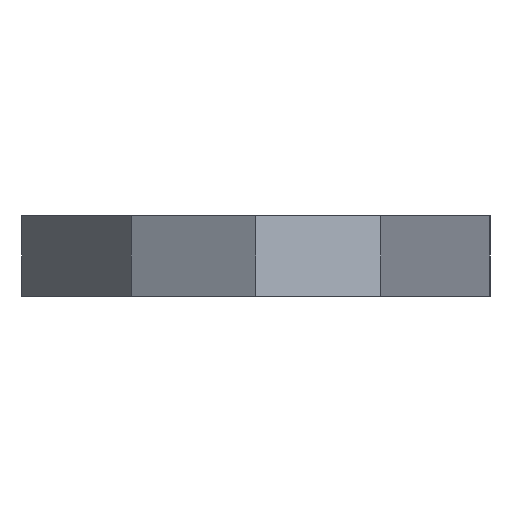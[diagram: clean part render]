
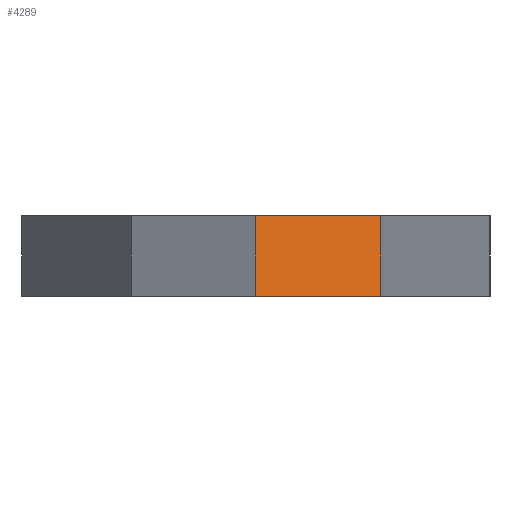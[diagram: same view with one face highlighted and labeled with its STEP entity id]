
A CAD part, left-side view. The second image highlights one B-rep face of the part: STEP entity #4289.
In plain terms, the highlighted planar face has unit normal (-0.866, -0.5, 0).
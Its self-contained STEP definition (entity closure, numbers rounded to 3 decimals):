
#285=PLANE('',#4566);
#492=FACE_OUTER_BOUND('',#709,.T.);
#709=EDGE_LOOP('',(#3677,#3678,#3679,#3680));
#1320=LINE('',#6793,#1849);
#1321=LINE('',#6796,#1850);
#1322=LINE('',#6798,#1851);
#1323=LINE('',#6799,#1852);
#1849=VECTOR('',#5609,10.);
#1850=VECTOR('',#5612,10.);
#1851=VECTOR('',#5613,10.);
#1852=VECTOR('',#5614,10.);
#2298=VERTEX_POINT('',#6789);
#2299=VERTEX_POINT('',#6791);
#2300=VERTEX_POINT('',#6795);
#2301=VERTEX_POINT('',#6797);
#2880=EDGE_CURVE('',#2298,#2299,#1320,.T.);
#2881=EDGE_CURVE('',#2300,#2298,#1321,.T.);
#2882=EDGE_CURVE('',#2301,#2299,#1322,.T.);
#2883=EDGE_CURVE('',#2300,#2301,#1323,.T.);
#3677=ORIENTED_EDGE('',*,*,#2881,.T.);
#3678=ORIENTED_EDGE('',*,*,#2880,.T.);
#3679=ORIENTED_EDGE('',*,*,#2882,.F.);
#3680=ORIENTED_EDGE('',*,*,#2883,.F.);
#4289=ADVANCED_FACE('',(#492),#285,.T.);
#4566=AXIS2_PLACEMENT_3D('',#6794,#5610,#5611);
#5609=DIRECTION('',(0.,0.,1.));
#5610=DIRECTION('center_axis',(-0.866,-0.5,0.));
#5611=DIRECTION('ref_axis',(0.5,-0.866,0.));
#5612=DIRECTION('',(0.5,-0.866,0.));
#5613=DIRECTION('',(0.5,-0.866,0.));
#5614=DIRECTION('',(0.,0.,1.));
#6789=CARTESIAN_POINT('',(38.453,17.5,0.));
#6791=CARTESIAN_POINT('',(38.453,17.5,12.85));
#6793=CARTESIAN_POINT('',(38.453,17.5,0.));
#6794=CARTESIAN_POINT('Origin',(26.906,37.5,0.));
#6795=CARTESIAN_POINT('',(26.906,37.5,0.));
#6796=CARTESIAN_POINT('',(26.906,37.5,0.));
#6797=CARTESIAN_POINT('',(26.906,37.5,12.85));
#6798=CARTESIAN_POINT('',(26.906,37.5,12.85));
#6799=CARTESIAN_POINT('',(26.906,37.5,0.));
